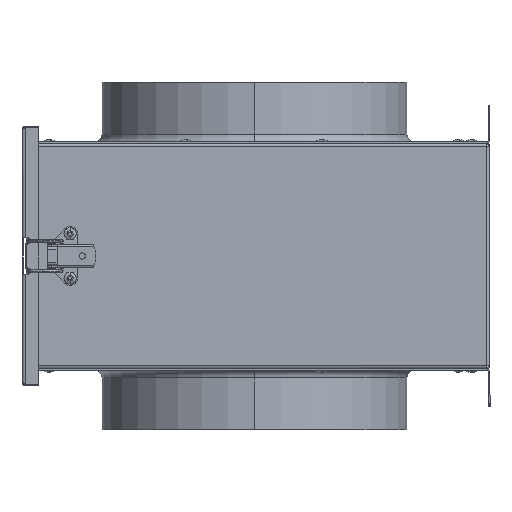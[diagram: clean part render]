
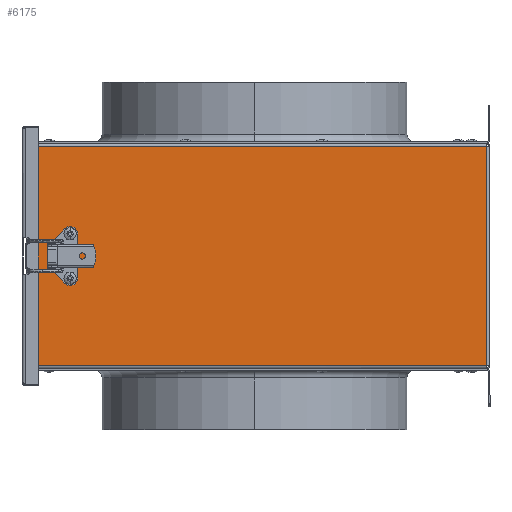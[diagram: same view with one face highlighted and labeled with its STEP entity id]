
A CAD part, left-side view. The second image highlights one B-rep face of the part: STEP entity #6175.
In plain terms, the highlighted planar face has unit normal (-1, 0, 0).
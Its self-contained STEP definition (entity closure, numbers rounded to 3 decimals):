
#38 = VECTOR ( 'NONE', #20384, 1000. ) ;
#216 = ORIENTED_EDGE ( 'NONE', *, *, #7678, .T. ) ;
#302 = CARTESIAN_POINT ( 'NONE',  ( -150., 304.2, -72. ) ) ;
#652 = CARTESIAN_POINT ( 'NONE',  ( -150., 275.5, -14.5 ) ) ;
#742 = DIRECTION ( 'NONE',  ( 0., 0., 1. ) ) ;
#1279 = VECTOR ( 'NONE', #2723, 1000. ) ;
#1367 = VERTEX_POINT ( 'NONE', #10473 ) ;
#1393 = LINE ( 'NONE', #17752, #8793 ) ;
#1564 = LINE ( 'NONE', #10223, #9949 ) ;
#1782 = VECTOR ( 'NONE', #9760, 1000. ) ;
#2159 = AXIS2_PLACEMENT_3D ( 'NONE', #2197, #2263, #13298 ) ;
#2197 = CARTESIAN_POINT ( 'NONE',  ( -150., 304.2, -74. ) ) ;
#2235 = DIRECTION ( 'NONE',  ( 0., 1., 0. ) ) ;
#2263 = DIRECTION ( 'NONE',  ( 1., 0., 0. ) ) ;
#2441 = CARTESIAN_POINT ( 'NONE',  ( -150., 301.8, 56.5 ) ) ;
#2550 = EDGE_CURVE ( 'NONE', #1367, #15046, #4800, .T. ) ;
#2723 = DIRECTION ( 'NONE',  ( 0., -1., 0. ) ) ;
#2791 = CARTESIAN_POINT ( 'NONE',  ( -150., 304.2, -56.9 ) ) ;
#2869 = ORIENTED_EDGE ( 'NONE', *, *, #6916, .F. ) ;
#3448 = ORIENTED_EDGE ( 'NONE', *, *, #15536, .F. ) ;
#3483 = VECTOR ( 'NONE', #11090, 1000. ) ;
#3569 = CARTESIAN_POINT ( 'NONE',  ( -150., 273.4, 14.5 ) ) ;
#3844 = DIRECTION ( 'NONE',  ( 0., 0., -1. ) ) ;
#4053 = CARTESIAN_POINT ( 'NONE',  ( -150., 304.2, 72. ) ) ;
#4156 = CARTESIAN_POINT ( 'NONE',  ( -150., 275.5, 14.5 ) ) ;
#4236 = EDGE_CURVE ( 'NONE', #17416, #16494, #5966, .T. ) ;
#4413 = VERTEX_POINT ( 'NONE', #10661 ) ;
#4432 = CARTESIAN_POINT ( 'NONE',  ( -150., 275.5, -14.5 ) ) ;
#4542 = ORIENTED_EDGE ( 'NONE', *, *, #19171, .T. ) ;
#4611 = VERTEX_POINT ( 'NONE', #17467 ) ;
#4800 = CIRCLE ( 'NONE', #17905, 2.1 ) ;
#5137 = VERTEX_POINT ( 'NONE', #16578 ) ;
#5320 = ORIENTED_EDGE ( 'NONE', *, *, #5323, .T. ) ;
#5323 = EDGE_CURVE ( 'NONE', #5137, #12262, #16042, .T. ) ;
#5343 = VERTEX_POINT ( 'NONE', #19030 ) ;
#5346 = FACE_OUTER_BOUND ( 'NONE', #15763, .T. ) ;
#5401 = CARTESIAN_POINT ( 'NONE',  ( -150., 273.4, -14.5 ) ) ;
#5567 = CARTESIAN_POINT ( 'NONE',  ( -150., 304.2, -56.5 ) ) ;
#5631 = CARTESIAN_POINT ( 'NONE',  ( -150., 304.2, 56.9 ) ) ;
#5716 = DIRECTION ( 'NONE',  ( 0., 1., 0. ) ) ;
#5851 = FACE_BOUND ( 'NONE', #11756, .T. ) ;
#5966 = LINE ( 'NONE', #302, #1782 ) ;
#5995 = DIRECTION ( 'NONE',  ( 0., 1., 0. ) ) ;
#6175 = ADVANCED_FACE ( 'NONE', ( #9556, #5851, #5346 ), #19561, .F. ) ;
#6194 = CARTESIAN_POINT ( 'NONE',  ( -150., 275.5, 14.5 ) ) ;
#6271 = VERTEX_POINT ( 'NONE', #8399 ) ;
#6296 = LINE ( 'NONE', #2791, #18399 ) ;
#6344 = CARTESIAN_POINT ( 'NONE',  ( -150., 2., 72. ) ) ;
#6448 = LINE ( 'NONE', #18505, #1279 ) ;
#6528 = EDGE_CURVE ( 'NONE', #8360, #14391, #11504, .T. ) ;
#6586 = VERTEX_POINT ( 'NONE', #5631 ) ;
#6916 = EDGE_CURVE ( 'NONE', #5137, #16494, #1393, .T. ) ;
#6981 = EDGE_CURVE ( 'NONE', #15046, #1367, #8291, .T. ) ;
#7224 = CARTESIAN_POINT ( 'NONE',  ( -150., 2., -72. ) ) ;
#7336 = ORIENTED_EDGE ( 'NONE', *, *, #17072, .T. ) ;
#7470 = CARTESIAN_POINT ( 'NONE',  ( -150., 304.2, -74. ) ) ;
#7678 = EDGE_CURVE ( 'NONE', #14968, #4413, #17671, .T. ) ;
#7708 = LINE ( 'NONE', #17012, #16097 ) ;
#7777 = DIRECTION ( 'NONE',  ( 0., 1., 0. ) ) ;
#8291 = CIRCLE ( 'NONE', #17895, 2.1 ) ;
#8322 = VERTEX_POINT ( 'NONE', #8575 ) ;
#8360 = VERTEX_POINT ( 'NONE', #2441 ) ;
#8399 = CARTESIAN_POINT ( 'NONE',  ( -150., 302.2, -56.5 ) ) ;
#8575 = CARTESIAN_POINT ( 'NONE',  ( -150., 301.8, -56.5 ) ) ;
#8740 = VERTEX_POINT ( 'NONE', #16053 ) ;
#8793 = VECTOR ( 'NONE', #9881, 1000. ) ;
#8797 = LINE ( 'NONE', #5567, #13483 ) ;
#9069 = DIRECTION ( 'NONE',  ( 0., -1., 0. ) ) ;
#9264 = ORIENTED_EDGE ( 'NONE', *, *, #15035, .T. ) ;
#9556 = FACE_BOUND ( 'NONE', #10365, .T. ) ;
#9760 = DIRECTION ( 'NONE',  ( 0., -1., 0. ) ) ;
#9881 = DIRECTION ( 'NONE',  ( 0., 0., -1. ) ) ;
#9949 = VECTOR ( 'NONE', #18088, 1000. ) ;
#10114 = EDGE_CURVE ( 'NONE', #4611, #8322, #7708, .T. ) ;
#10223 = CARTESIAN_POINT ( 'NONE',  ( -150., 304.2, -74. ) ) ;
#10365 = EDGE_LOOP ( 'NONE', ( #19846, #14426 ) ) ;
#10473 = CARTESIAN_POINT ( 'NONE',  ( -150., 277.6, -14.5 ) ) ;
#10661 = CARTESIAN_POINT ( 'NONE',  ( -150., 277.6, 14.5 ) ) ;
#10685 = LINE ( 'NONE', #13284, #17578 ) ;
#11021 = VECTOR ( 'NONE', #742, 1000. ) ;
#11090 = DIRECTION ( 'NONE',  ( 0., 1., 0. ) ) ;
#11504 = LINE ( 'NONE', #16524, #11021 ) ;
#11556 = CIRCLE ( 'NONE', #18445, 2.1 ) ;
#11673 = DIRECTION ( 'NONE',  ( 1., 0., 0. ) ) ;
#11756 = EDGE_LOOP ( 'NONE', ( #4542, #216 ) ) ;
#11845 = DIRECTION ( 'NONE',  ( 0., 1., 0. ) ) ;
#11876 = ORIENTED_EDGE ( 'NONE', *, *, #15914, .T. ) ;
#12064 = VECTOR ( 'NONE', #20057, 1000. ) ;
#12262 = VERTEX_POINT ( 'NONE', #4053 ) ;
#12770 = ORIENTED_EDGE ( 'NONE', *, *, #19470, .F. ) ;
#13284 = CARTESIAN_POINT ( 'NONE',  ( -150., 302.2, 56.5 ) ) ;
#13298 = DIRECTION ( 'NONE',  ( 0., 1., 0. ) ) ;
#13483 = VECTOR ( 'NONE', #11845, 1000. ) ;
#13547 = AXIS2_PLACEMENT_3D ( 'NONE', #4156, #15171, #5716 ) ;
#14244 = ORIENTED_EDGE ( 'NONE', *, *, #20170, .F. ) ;
#14391 = VERTEX_POINT ( 'NONE', #18189 ) ;
#14426 = ORIENTED_EDGE ( 'NONE', *, *, #6981, .T. ) ;
#14660 = ORIENTED_EDGE ( 'NONE', *, *, #19066, .F. ) ;
#14813 = ORIENTED_EDGE ( 'NONE', *, *, #10114, .F. ) ;
#14968 = VERTEX_POINT ( 'NONE', #3569 ) ;
#15035 = EDGE_CURVE ( 'NONE', #8740, #6271, #10685, .T. ) ;
#15046 = VERTEX_POINT ( 'NONE', #5401 ) ;
#15171 = DIRECTION ( 'NONE',  ( 1., 0., 0. ) ) ;
#15455 = DIRECTION ( 'NONE',  ( 1., 0., 0. ) ) ;
#15536 = EDGE_CURVE ( 'NONE', #8740, #8360, #6448, .T. ) ;
#15763 = EDGE_LOOP ( 'NONE', ( #14660, #16695, #3448, #9264, #12770, #14813, #14244, #7336, #17630, #2869, #5320, #11876 ) ) ;
#15914 = EDGE_CURVE ( 'NONE', #12262, #6586, #1564, .T. ) ;
#16042 = LINE ( 'NONE', #6344, #3483 ) ;
#16053 = CARTESIAN_POINT ( 'NONE',  ( -150., 302.2, 56.5 ) ) ;
#16097 = VECTOR ( 'NONE', #18543, 1000. ) ;
#16321 = LINE ( 'NONE', #7470, #38 ) ;
#16494 = VERTEX_POINT ( 'NONE', #7224 ) ;
#16524 = CARTESIAN_POINT ( 'NONE',  ( -150., 301.8, -74. ) ) ;
#16578 = CARTESIAN_POINT ( 'NONE',  ( -150., 2., 72. ) ) ;
#16625 = CARTESIAN_POINT ( 'NONE',  ( -150., 304.2, -72. ) ) ;
#16695 = ORIENTED_EDGE ( 'NONE', *, *, #6528, .F. ) ;
#17012 = CARTESIAN_POINT ( 'NONE',  ( -150., 301.8, -74. ) ) ;
#17072 = EDGE_CURVE ( 'NONE', #5343, #17416, #16321, .T. ) ;
#17234 = DIRECTION ( 'NONE',  ( 1., 0., 0. ) ) ;
#17416 = VERTEX_POINT ( 'NONE', #16625 ) ;
#17467 = CARTESIAN_POINT ( 'NONE',  ( -150., 301.8, -56.9 ) ) ;
#17578 = VECTOR ( 'NONE', #3844, 1000. ) ;
#17630 = ORIENTED_EDGE ( 'NONE', *, *, #4236, .T. ) ;
#17671 = CIRCLE ( 'NONE', #13547, 2.1 ) ;
#17752 = CARTESIAN_POINT ( 'NONE',  ( -150., 2., -74. ) ) ;
#17895 = AXIS2_PLACEMENT_3D ( 'NONE', #652, #11673, #2235 ) ;
#17905 = AXIS2_PLACEMENT_3D ( 'NONE', #4432, #15455, #5995 ) ;
#18088 = DIRECTION ( 'NONE',  ( 0., 0., -1. ) ) ;
#18189 = CARTESIAN_POINT ( 'NONE',  ( -150., 301.8, 56.9 ) ) ;
#18399 = VECTOR ( 'NONE', #9069, 1000. ) ;
#18445 = AXIS2_PLACEMENT_3D ( 'NONE', #6194, #17234, #7777 ) ;
#18491 = CARTESIAN_POINT ( 'NONE',  ( -150., 304.2, 56.9 ) ) ;
#18505 = CARTESIAN_POINT ( 'NONE',  ( -150., 304.2, 56.5 ) ) ;
#18543 = DIRECTION ( 'NONE',  ( 0., 0., 1. ) ) ;
#19030 = CARTESIAN_POINT ( 'NONE',  ( -150., 304.2, -56.9 ) ) ;
#19066 = EDGE_CURVE ( 'NONE', #14391, #6586, #20457, .T. ) ;
#19171 = EDGE_CURVE ( 'NONE', #4413, #14968, #11556, .T. ) ;
#19470 = EDGE_CURVE ( 'NONE', #8322, #6271, #8797, .T. ) ;
#19561 = PLANE ( 'NONE',  #2159 ) ;
#19846 = ORIENTED_EDGE ( 'NONE', *, *, #2550, .T. ) ;
#20057 = DIRECTION ( 'NONE',  ( 0., 1., 0. ) ) ;
#20170 = EDGE_CURVE ( 'NONE', #5343, #4611, #6296, .T. ) ;
#20384 = DIRECTION ( 'NONE',  ( 0., 0., -1. ) ) ;
#20457 = LINE ( 'NONE', #18491, #12064 ) ;
